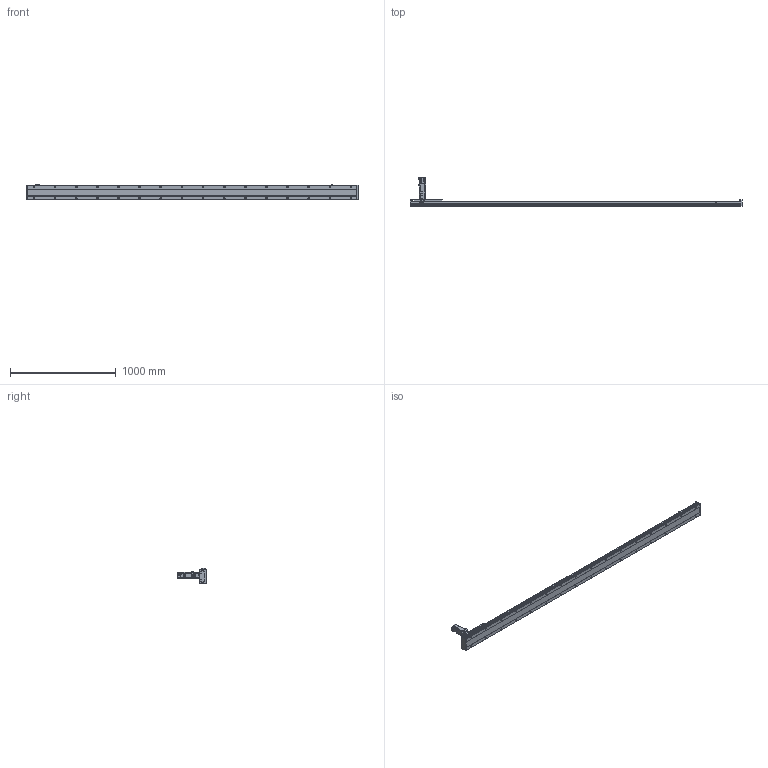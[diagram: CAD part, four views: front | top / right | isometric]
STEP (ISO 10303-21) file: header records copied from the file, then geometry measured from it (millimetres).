
FILE_DESCRIPTION(/* description */ ('STEP AP203'),/* implementation_level */ '2;1');
FILE_NAME(/* name */ 'SHS14A-L10-S2800-BC-T40-C1-N(0)',/* time_stamp */ '2023-03-27T08:52:31+02:00',/* author */ ('License CC BY-ND 4.0'),/* organization */ ('CADENAS'),/* preprocessor_version */ 'ST-DEVELOPER v19.3',/* originating_system */ 'PARTsolutions',/* authorisation */ ' ');
FILE_SCHEMA (('CONFIG_CONTROL_DESIGN'));
Length unit declared in the file: millimetre
Products named in the file (7): SHS14A-L10-S2800-BC-T40-C1-N(0); PSC140-sensor; T40-p1; SHS14AT_body3; SHS14A-2800_slider; SHS14A_body2; SHS14A-S2800-BC-T40-C1(0)_body
Assembly tree (13 placements, depth 2):
  SHS14A-L10-S2800-BC-T40-C1-N(0)
    PSC140-sensor  x3
    T40-p1
    SHS14AT_body3
    SHS14A-2800_slider
    SHS14A_body2  x6
    SHS14A-S2800-BC-T40-C1(0)_body
Bounding box: 3140 x 272.7 x 150.9 mm (x, y, z)
Volume: 12887145.9 mm3; surface area: 2004117.4 mm2
Topology: 13 solids, 13 shells, 2156 faces, 5503 edges, 3598 vertices
Faces by surface type: plane 1491, cylinder 571, cone 84, torus 10
Full cylindrical faces by diameter (mm): 2.8 x3, 4.134 x24, 4.2 x7, 4.4 x24, 4.5 x24, 4.6 x3, 4.8 x24, 4.917 x40, 5 x8, 5.5 x11, 5.94 x6, 6 x2, 6.6 x32, 8 x24, 8.49 x4, 8.5 x4, 9 x4, 10.5 x32, 13.964 x1, 14 x1, 14.182 x1, 16 x1, 18.974 x1, 19.274 x1, 19.774 x1, 19.8 x1, 34.442 x1, 42 x1, 50 x5
Entity records: 35122 total; most frequent: CARTESIAN_POINT 6282, DIRECTION 5935, ORIENTED_EDGE 5442, EDGE_CURVE 2721, AXIS2_PLACEMENT_3D 2081, VERTEX_POINT 1948, EDGE_LOOP 1799, FACE_BOUND 1799
